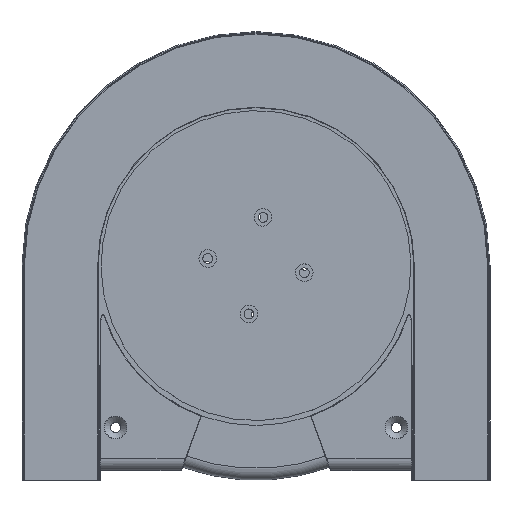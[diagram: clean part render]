
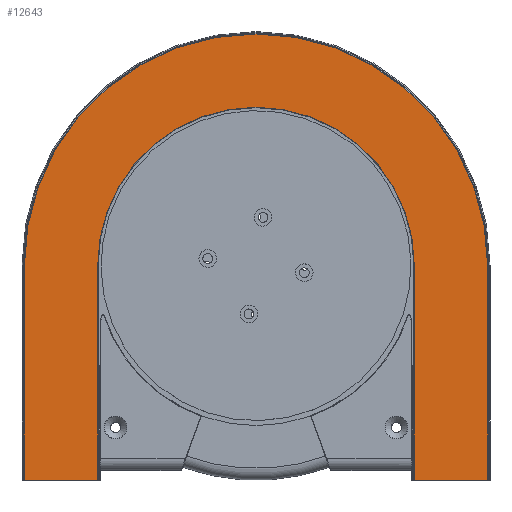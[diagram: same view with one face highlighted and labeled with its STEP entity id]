
A CAD part, top view. The second image highlights one B-rep face of the part: STEP entity #12643.
In plain terms, the highlighted planar face has unit normal (0, 0, 1).
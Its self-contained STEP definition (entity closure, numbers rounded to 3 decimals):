
#8191=CARTESIAN_POINT('',(-201.2,0.,75.));
#8192=VERTEX_POINT('',#8191);
#8210=CARTESIAN_POINT('',(-201.2,110.,75.));
#8211=VERTEX_POINT('',#8210);
#8219=CARTESIAN_POINT('',(-201.2,110.,75.));
#8220=DIRECTION('',(0.0,-1.0,0.0));
#8221=VECTOR('',#8220,110.);
#8222=LINE('',#8219,#8221);
#8223=EDGE_CURVE('',#8211,#8192,#8222,.T.);
#10648=CARTESIAN_POINT('',(-238.8,0.,75.));
#10649=VERTEX_POINT('',#10648);
#10657=CARTESIAN_POINT('',(-238.8,110.,75.));
#10658=VERTEX_POINT('',#10657);
#10659=CARTESIAN_POINT('',(-238.8,110.,75.));
#10660=DIRECTION('',(0.0,-1.0,0.0));
#10661=VECTOR('',#10660,110.);
#10662=LINE('',#10659,#10661);
#10663=EDGE_CURVE('',#10658,#10649,#10662,.T.);
#10682=CARTESIAN_POINT('',(-1.2,110.0,75.));
#10683=VERTEX_POINT('',#10682);
#10684=CARTESIAN_POINT('',(-120.,110.,75.));
#10685=DIRECTION('',(0.0,0.0,1.0));
#10686=DIRECTION('',(1.0,0.0,0.0));
#10687=AXIS2_PLACEMENT_3D('',#10684,#10685,#10686);
#10688=CIRCLE('',#10687,118.8);
#10689=EDGE_CURVE('',#10683,#10658,#10688,.T.);
#10725=CARTESIAN_POINT('',(-38.8,110.0,75.));
#10726=VERTEX_POINT('',#10725);
#10734=CARTESIAN_POINT('',(-120.,110.,75.));
#10735=DIRECTION('',(0.0,0.0,1.0));
#10736=DIRECTION('',(1.0,0.0,0.0));
#10737=AXIS2_PLACEMENT_3D('',#10734,#10735,#10736);
#10738=CIRCLE('',#10737,81.2);
#10739=EDGE_CURVE('',#10726,#8211,#10738,.T.);
#12592=CARTESIAN_POINT('',(-1.2,0.,75.));
#12593=VERTEX_POINT('',#12592);
#12594=CARTESIAN_POINT('',(-1.2,0.,75.));
#12595=DIRECTION('',(0.0,1.0,0.0));
#12596=VECTOR('',#12595,110.0);
#12597=LINE('',#12594,#12596);
#12598=EDGE_CURVE('',#12593,#10683,#12597,.T.);
#12611=CARTESIAN_POINT('',(-1.2,0.,75.));
#12612=DIRECTION('',(0.0,0.0,1.0));
#12613=DIRECTION('',(0.0,1.0,0.0));
#12614=AXIS2_PLACEMENT_3D('',#12611,#12612,#12613);
#12615=PLANE('',#12614);
#12616=CARTESIAN_POINT('',(-38.8,0.,75.));
#12617=VERTEX_POINT('',#12616);
#12618=CARTESIAN_POINT('',(-38.8,0.,75.));
#12619=DIRECTION('',(0.0,1.0,0.0));
#12620=VECTOR('',#12619,110.0);
#12621=LINE('',#12618,#12620);
#12622=EDGE_CURVE('',#12617,#10726,#12621,.T.);
#12623=ORIENTED_EDGE('',*,*,#12622,.F.);
#12624=CARTESIAN_POINT('',(-38.8,0.,75.));
#12625=DIRECTION('',(1.0,0.0,0.0));
#12626=VECTOR('',#12625,37.6);
#12627=LINE('',#12624,#12626);
#12628=EDGE_CURVE('',#12617,#12593,#12627,.T.);
#12629=ORIENTED_EDGE('',*,*,#12628,.T.);
#12630=ORIENTED_EDGE('',*,*,#12598,.T.);
#12631=ORIENTED_EDGE('',*,*,#10689,.T.);
#12632=ORIENTED_EDGE('',*,*,#10663,.T.);
#12633=CARTESIAN_POINT('',(-238.8,0.,75.));
#12634=DIRECTION('',(1.0,0.0,0.0));
#12635=VECTOR('',#12634,37.6);
#12636=LINE('',#12633,#12635);
#12637=EDGE_CURVE('',#10649,#8192,#12636,.T.);
#12638=ORIENTED_EDGE('',*,*,#12637,.T.);
#12639=ORIENTED_EDGE('',*,*,#8223,.F.);
#12640=ORIENTED_EDGE('',*,*,#10739,.F.);
#12641=EDGE_LOOP('',(#12623,#12629,#12630,#12631,#12632,#12638,#12639,#12640));
#12642=FACE_OUTER_BOUND('',#12641,.T.);
#12643=ADVANCED_FACE('',(#12642),#12615,.T.);
